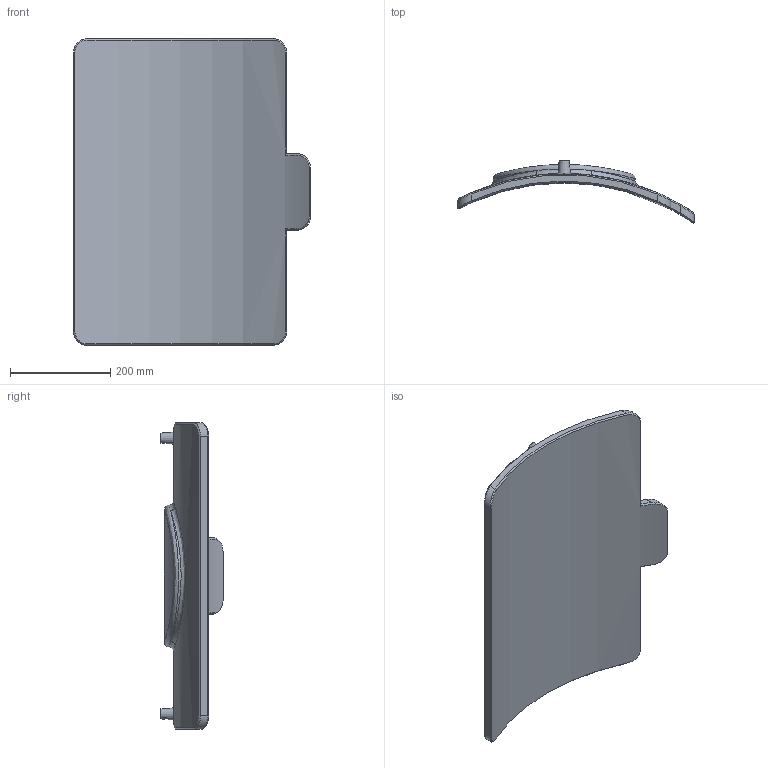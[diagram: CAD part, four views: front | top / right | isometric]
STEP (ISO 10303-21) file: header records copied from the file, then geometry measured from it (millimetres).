
FILE_DESCRIPTION(/* description */ ('Repair Saddle 400-900mm'),/* implementation_level */ '2;1');
FILE_NAME(/* name */ 'C:\Dropbox\KIMPROJECTS-Inventor 2019\99-16-3568-Processing\ElectroFusion Fittings\49520\stp\495203900230.stp',/* time_stamp */ '2023-08-29T11:17:05+03:00',/* author */ ('Kirill'),/* organization */ (''),/* preprocessor_version */ 'ST-DEVELOPER v17.2',/* originating_system */ 'Autodesk Inventor 2019',/* authorisation */ '');
FILE_SCHEMA (('AUTOMOTIVE_DESIGN { 1 0 10303 214 3 1 1 }'));
Length unit declared in the file: millimetre
Products named in the file (1): 495203900230
Bounding box: 471 x 123.49 x 610 mm (x, y, z)
Volume: 6110366.6 mm3; surface area: 604195.7 mm2
Topology: 1 solids, 1 shells, 76 faces, 181 edges, 114 vertices
Faces by surface type: bspline 29, plane 22, cylinder 15, cone 10
Full cylindrical faces by diameter (mm): 7 x2, 14 x2
Entity records: 3624 total; most frequent: CARTESIAN_POINT 2049, ORIENTED_EDGE 362, DIRECTION 228, EDGE_CURVE 181, VERTEX_POINT 114, EDGE_LOOP 83, AXIS2_PLACEMENT_3D 78, FACE_OUTER_BOUND 76
